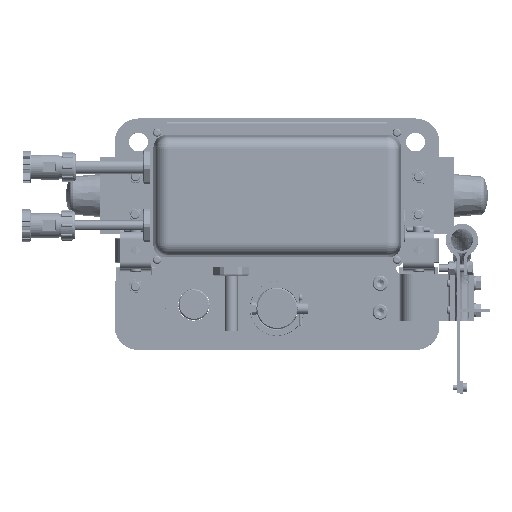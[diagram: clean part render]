
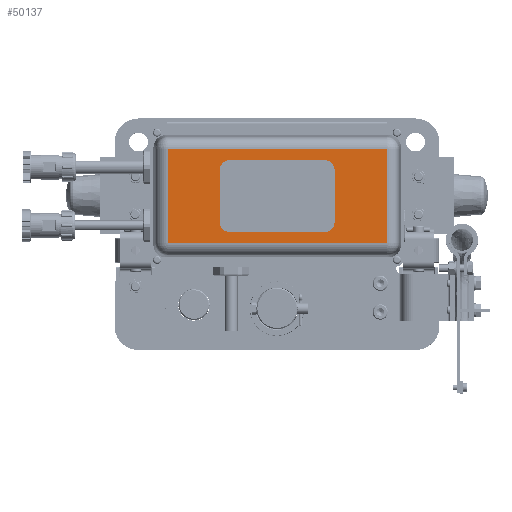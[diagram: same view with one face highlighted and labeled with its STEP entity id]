
A CAD part, top view. The second image highlights one B-rep face of the part: STEP entity #50137.
In plain terms, the highlighted planar face has unit normal (0, 0, 1) as drawn and (-1, 0, 0) by its records, which use the part's own axes.
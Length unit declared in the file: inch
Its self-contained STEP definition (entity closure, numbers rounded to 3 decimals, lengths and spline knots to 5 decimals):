
#16797 = ORIENTED_EDGE ( 'NONE', *, *, #89624, .T. ) ;
#16971 = ORIENTED_EDGE ( 'NONE', *, *, #171697, .T. ) ;
#23220 = LINE ( 'NONE', #117515, #206421 ) ;
#25889 = ORIENTED_EDGE ( 'NONE', *, *, #148457, .T. ) ;
#39098 = CARTESIAN_POINT ( 'NONE',  ( -2.71654, 5.33958, 9.75453 ) ) ;
#40133 = CARTESIAN_POINT ( 'NONE',  ( -2.71654, 4.84533, 10.47244 ) ) ;
#45008 = VERTEX_POINT ( 'NONE', #205370 ) ;
#50137 = ADVANCED_FACE ( 'NONE', ( #119915 ), #164978, .T. ) ;
#53990 = DIRECTION ( 'NONE',  ( -1., 0., 0. ) ) ;
#69139 = ORIENTED_EDGE ( 'NONE', *, *, #134394, .T. ) ;
#70465 = CARTESIAN_POINT ( 'NONE',  ( -2.71654, 4.84533, 9.75453 ) ) ;
#75278 = DIRECTION ( 'NONE',  ( 0., 0., 1. ) ) ;
#79209 = VERTEX_POINT ( 'NONE', #98971 ) ;
#89624 = EDGE_CURVE ( 'NONE', #45008, #79209, #105643, .T. ) ;
#98602 = VERTEX_POINT ( 'NONE', #70465 ) ;
#98971 = CARTESIAN_POINT ( 'NONE',  ( -2.71654, 0.98144, 9.75453 ) ) ;
#105643 = LINE ( 'NONE', #108738, #121395 ) ;
#108738 = CARTESIAN_POINT ( 'NONE',  ( -2.71654, 0.98144, 10.47244 ) ) ;
#117515 = CARTESIAN_POINT ( 'NONE',  ( -2.71654, -2.25031, 0.73446 ) ) ;
#117694 = DIRECTION ( 'NONE',  ( 0., 0., -1. ) ) ;
#118701 = DIRECTION ( 'NONE',  ( 0., 1., 0. ) ) ;
#119915 = FACE_OUTER_BOUND ( 'NONE', #154724, .T. ) ;
#121395 = VECTOR ( 'NONE', #75278, 39.37008 ) ;
#134394 = EDGE_CURVE ( 'NONE', #98602, #146396, #197218, .T. ) ;
#142763 = CARTESIAN_POINT ( 'NONE',  ( -2.71654, 4.84533, 0.73446 ) ) ;
#146396 = VERTEX_POINT ( 'NONE', #142763 ) ;
#148457 = EDGE_CURVE ( 'NONE', #79209, #98602, #202342, .T. ) ;
#154724 = EDGE_LOOP ( 'NONE', ( #16797, #25889, #69139, #16971 ) ) ;
#159720 = VECTOR ( 'NONE', #118701, 39.37008 ) ;
#164978 = PLANE ( 'NONE',  #169939 ) ;
#165663 = DIRECTION ( 'NONE',  ( 0., -1., 0. ) ) ;
#169939 = AXIS2_PLACEMENT_3D ( 'NONE', #197389, #53990, #181700 ) ;
#171697 = EDGE_CURVE ( 'NONE', #146396, #45008, #23220, .T. ) ;
#172212 = VECTOR ( 'NONE', #117694, 39.37008 ) ;
#181700 = DIRECTION ( 'NONE',  ( 0., 0., 1. ) ) ;
#197218 = LINE ( 'NONE', #40133, #172212 ) ;
#197389 = CARTESIAN_POINT ( 'NONE',  ( -2.71654, -2.25031, 10.47244 ) ) ;
#202342 = LINE ( 'NONE', #39098, #159720 ) ;
#205370 = CARTESIAN_POINT ( 'NONE',  ( -2.71654, 0.98144, 0.73446 ) ) ;
#206421 = VECTOR ( 'NONE', #165663, 39.37008 ) ;
